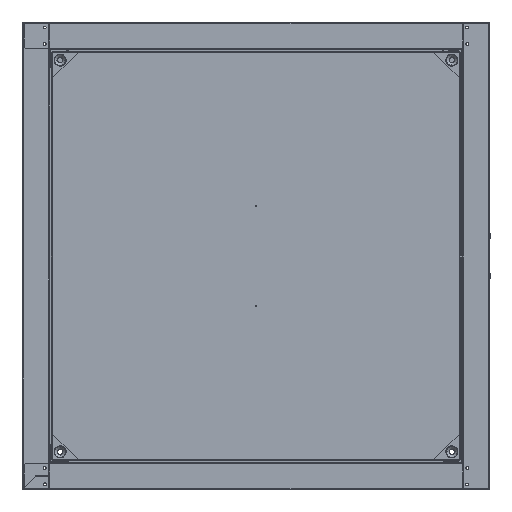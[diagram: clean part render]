
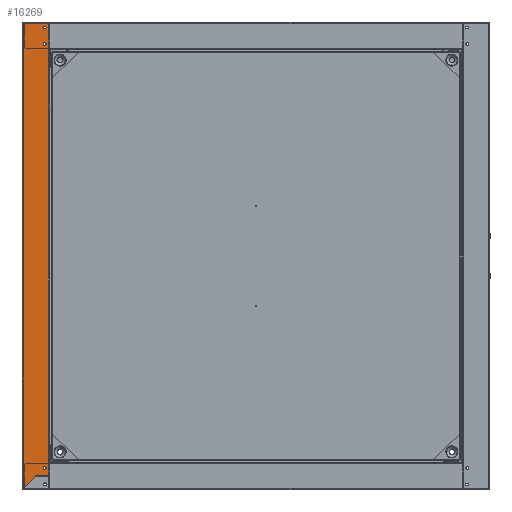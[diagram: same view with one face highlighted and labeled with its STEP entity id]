
A CAD part, left-side view. The second image highlights one B-rep face of the part: STEP entity #16269.
In plain terms, the highlighted planar face has unit normal (-1, 0, 0).
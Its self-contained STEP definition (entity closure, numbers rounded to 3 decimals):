
#20 = ORIENTED_EDGE ( 'NONE', *, *, #44122, .T. ) ;
#214 = EDGE_CURVE ( 'NONE', #14907, #21332, #32493, .T. ) ;
#688 = EDGE_CURVE ( 'NONE', #14907, #27893, #42577, .T. ) ;
#868 = EDGE_CURVE ( 'NONE', #24499, #27453, #28231, .T. ) ;
#1015 = VECTOR ( 'NONE', #36112, 1000. ) ;
#1247 = VERTEX_POINT ( 'NONE', #10176 ) ;
#1351 = VECTOR ( 'NONE', #15127, 1000. ) ;
#1586 = DIRECTION ( 'NONE',  ( 0., 1., 0. ) ) ;
#1799 = VERTEX_POINT ( 'NONE', #21472 ) ;
#2018 = AXIS2_PLACEMENT_3D ( 'NONE', #18409, #42193, #21890 ) ;
#2613 = ORIENTED_EDGE ( 'NONE', *, *, #31749, .F. ) ;
#2644 = CIRCLE ( 'NONE', #2018, 2.1 ) ;
#2690 = CARTESIAN_POINT ( 'NONE',  ( -350., 310.2, -329.1 ) ) ;
#3003 = VERTEX_POINT ( 'NONE', #22727 ) ;
#3838 = VERTEX_POINT ( 'NONE', #11514 ) ;
#3987 = CARTESIAN_POINT ( 'NONE',  ( -350., 318.1, 341.7 ) ) ;
#4440 = EDGE_CURVE ( 'NONE', #23605, #3003, #34859, .T. ) ;
#4491 = PLANE ( 'NONE',  #10290 ) ;
#4756 = CARTESIAN_POINT ( 'NONE',  ( -350., 310.7, 311.65 ) ) ;
#5308 = EDGE_CURVE ( 'NONE', #13173, #27453, #6493, .T. ) ;
#5347 = CARTESIAN_POINT ( 'NONE',  ( -350., 349.1, -348.45 ) ) ;
#5552 = VECTOR ( 'NONE', #34878, 1000. ) ;
#5764 = CARTESIAN_POINT ( 'NONE',  ( -350., 348., 348. ) ) ;
#5800 = EDGE_LOOP ( 'NONE', ( #10046, #2613 ) ) ;
#5843 = ORIENTED_EDGE ( 'NONE', *, *, #27420, .F. ) ;
#6493 = LINE ( 'NONE', #5347, #14548 ) ;
#6513 = FACE_BOUND ( 'NONE', #5800, .T. ) ;
#6782 = DIRECTION ( 'NONE',  ( -1., 0., 0. ) ) ;
#7062 = CARTESIAN_POINT ( 'NONE',  ( -350., 329.75, -329.1 ) ) ;
#7086 = EDGE_CURVE ( 'NONE', #13173, #23605, #14691, .T. ) ;
#7656 = VERTEX_POINT ( 'NONE', #21255 ) ;
#7835 = AXIS2_PLACEMENT_3D ( 'NONE', #9148, #33015, #12635 ) ;
#7868 = DIRECTION ( 'NONE',  ( 0., -1., 0. ) ) ;
#7949 = DIRECTION ( 'NONE',  ( 1., 0., 0. ) ) ;
#8647 = CARTESIAN_POINT ( 'NONE',  ( -350., 310.2, -310.05 ) ) ;
#8662 = CARTESIAN_POINT ( 'NONE',  ( -350., 348., 348.95 ) ) ;
#8939 = ORIENTED_EDGE ( 'NONE', *, *, #18379, .F. ) ;
#9148 = CARTESIAN_POINT ( 'NONE',  ( -350., 316., -317.2 ) ) ;
#9749 = AXIS2_PLACEMENT_3D ( 'NONE', #15310, #39087, #18749 ) ;
#9785 = VECTOR ( 'NONE', #11595, 1000. ) ;
#10046 = ORIENTED_EDGE ( 'NONE', *, *, #43740, .F. ) ;
#10172 = CIRCLE ( 'NONE', #7835, 2.1 ) ;
#10176 = CARTESIAN_POINT ( 'NONE',  ( -350., 313.9, 341.7 ) ) ;
#10290 = AXIS2_PLACEMENT_3D ( 'NONE', #24997, #7949, #31789 ) ;
#10524 = CARTESIAN_POINT ( 'NONE',  ( -350., 316., 317.2 ) ) ;
#11514 = CARTESIAN_POINT ( 'NONE',  ( -350., 313.9, 317.2 ) ) ;
#11595 = DIRECTION ( 'NONE',  ( 0., 0., 1. ) ) ;
#12635 = DIRECTION ( 'NONE',  ( 0., -1., 0. ) ) ;
#12764 = CARTESIAN_POINT ( 'NONE',  ( -350., 313.9, -317.2 ) ) ;
#12782 = CARTESIAN_POINT ( 'NONE',  ( -350., 316., -317.2 ) ) ;
#13173 = VERTEX_POINT ( 'NONE', #7062 ) ;
#13339 = ORIENTED_EDGE ( 'NONE', *, *, #688, .T. ) ;
#13988 = DIRECTION ( 'NONE',  ( 0., -1., 0. ) ) ;
#14030 = EDGE_LOOP ( 'NONE', ( #20, #33820, #28378, #36812, #28333, #31051, #23309, #13339, #32115 ) ) ;
#14253 = EDGE_CURVE ( 'NONE', #7656, #3838, #28082, .T. ) ;
#14359 = VECTOR ( 'NONE', #7868, 1000. ) ;
#14548 = VECTOR ( 'NONE', #30573, 1000. ) ;
#14553 = VERTEX_POINT ( 'NONE', #12764 ) ;
#14691 = LINE ( 'NONE', #28796, #5552 ) ;
#14907 = VERTEX_POINT ( 'NONE', #4756 ) ;
#15127 = DIRECTION ( 'NONE',  ( 0., 0., 1. ) ) ;
#15310 = CARTESIAN_POINT ( 'NONE',  ( -350., 316., 341.7 ) ) ;
#16032 = DIRECTION ( 'NONE',  ( 0., 0., -1. ) ) ;
#16221 = DIRECTION ( 'NONE',  ( 0., -1., 0. ) ) ;
#16269 = ADVANCED_FACE ( 'NONE', ( #6513, #34795, #41722, #24719 ), #4491, .F. ) ;
#18379 = EDGE_CURVE ( 'NONE', #26923, #1247, #2644, .T. ) ;
#18409 = CARTESIAN_POINT ( 'NONE',  ( -350., 316., 341.7 ) ) ;
#18749 = DIRECTION ( 'NONE',  ( 0., -1., 0. ) ) ;
#18869 = CARTESIAN_POINT ( 'NONE',  ( -350., 310.2, 311.65 ) ) ;
#18976 = EDGE_LOOP ( 'NONE', ( #31488, #8939 ) ) ;
#20084 = CARTESIAN_POINT ( 'NONE',  ( -350., 310.2, 311.65 ) ) ;
#20465 = VECTOR ( 'NONE', #1586, 1000. ) ;
#20557 = EDGE_CURVE ( 'NONE', #3003, #21332, #30549, .T. ) ;
#21255 = CARTESIAN_POINT ( 'NONE',  ( -350., 318.1, 317.2 ) ) ;
#21332 = VERTEX_POINT ( 'NONE', #41471 ) ;
#21373 = VERTEX_POINT ( 'NONE', #41755 ) ;
#21460 = DIRECTION ( 'NONE',  ( 0., 0., -1. ) ) ;
#21472 = CARTESIAN_POINT ( 'NONE',  ( -350., 318.1, -317.2 ) ) ;
#21890 = DIRECTION ( 'NONE',  ( 0., -1., 0. ) ) ;
#22264 = EDGE_LOOP ( 'NONE', ( #5843, #30967 ) ) ;
#22727 = CARTESIAN_POINT ( 'NONE',  ( -350., 310.2, -310.05 ) ) ;
#23309 = ORIENTED_EDGE ( 'NONE', *, *, #214, .F. ) ;
#23605 = VERTEX_POINT ( 'NONE', #2690 ) ;
#23837 = EDGE_CURVE ( 'NONE', #27893, #21373, #37672, .T. ) ;
#24388 = AXIS2_PLACEMENT_3D ( 'NONE', #10524, #34375, #13988 ) ;
#24429 = CIRCLE ( 'NONE', #24388, 2.1 ) ;
#24499 = VERTEX_POINT ( 'NONE', #5764 ) ;
#24719 = FACE_OUTER_BOUND ( 'NONE', #14030, .T. ) ;
#24997 = CARTESIAN_POINT ( 'NONE',  ( -350., 350., 348.95 ) ) ;
#26923 = VERTEX_POINT ( 'NONE', #3987 ) ;
#27256 = LINE ( 'NONE', #42954, #1015 ) ;
#27270 = CARTESIAN_POINT ( 'NONE',  ( -350., 316., 317.2 ) ) ;
#27420 = EDGE_CURVE ( 'NONE', #3838, #7656, #24429, .T. ) ;
#27453 = VERTEX_POINT ( 'NONE', #41377 ) ;
#27657 = EDGE_CURVE ( 'NONE', #1247, #26923, #32863, .T. ) ;
#27893 = VERTEX_POINT ( 'NONE', #20084 ) ;
#28082 = CIRCLE ( 'NONE', #30945, 2.1 ) ;
#28231 = LINE ( 'NONE', #8662, #44169 ) ;
#28333 = ORIENTED_EDGE ( 'NONE', *, *, #4440, .T. ) ;
#28378 = ORIENTED_EDGE ( 'NONE', *, *, #5308, .F. ) ;
#28796 = CARTESIAN_POINT ( 'NONE',  ( -350., 310.2, -329.1 ) ) ;
#30549 = LINE ( 'NONE', #39004, #20465 ) ;
#30573 = DIRECTION ( 'NONE',  ( 0., 0.707, -0.707 ) ) ;
#30649 = DIRECTION ( 'NONE',  ( 0., -1., 0. ) ) ;
#30945 = AXIS2_PLACEMENT_3D ( 'NONE', #27270, #6782, #30649 ) ;
#30967 = ORIENTED_EDGE ( 'NONE', *, *, #14253, .F. ) ;
#31051 = ORIENTED_EDGE ( 'NONE', *, *, #20557, .T. ) ;
#31488 = ORIENTED_EDGE ( 'NONE', *, *, #27657, .F. ) ;
#31749 = EDGE_CURVE ( 'NONE', #1799, #14553, #33549, .T. ) ;
#31789 = DIRECTION ( 'NONE',  ( 0., 1., 0. ) ) ;
#32115 = ORIENTED_EDGE ( 'NONE', *, *, #23837, .T. ) ;
#32493 = LINE ( 'NONE', #35358, #39401 ) ;
#32863 = CIRCLE ( 'NONE', #9749, 2.1 ) ;
#33015 = DIRECTION ( 'NONE',  ( -1., 0., 0. ) ) ;
#33549 = CIRCLE ( 'NONE', #44325, 2.1 ) ;
#33820 = ORIENTED_EDGE ( 'NONE', *, *, #868, .T. ) ;
#34375 = DIRECTION ( 'NONE',  ( -1., 0., 0. ) ) ;
#34795 = FACE_BOUND ( 'NONE', #22264, .T. ) ;
#34859 = LINE ( 'NONE', #8647, #9785 ) ;
#34878 = DIRECTION ( 'NONE',  ( 0., -1., 0. ) ) ;
#35358 = CARTESIAN_POINT ( 'NONE',  ( -350., 310.7, 348.95 ) ) ;
#36112 = DIRECTION ( 'NONE',  ( 0., 1., 0. ) ) ;
#36573 = DIRECTION ( 'NONE',  ( -1., 0., 0. ) ) ;
#36812 = ORIENTED_EDGE ( 'NONE', *, *, #7086, .T. ) ;
#37672 = LINE ( 'NONE', #18869, #1351 ) ;
#39004 = CARTESIAN_POINT ( 'NONE',  ( -350., 310.7, -310.05 ) ) ;
#39087 = DIRECTION ( 'NONE',  ( -1., 0., 0. ) ) ;
#39401 = VECTOR ( 'NONE', #21460, 1000. ) ;
#41377 = CARTESIAN_POINT ( 'NONE',  ( -350., 348., -347.35 ) ) ;
#41471 = CARTESIAN_POINT ( 'NONE',  ( -350., 310.7, -310.05 ) ) ;
#41722 = FACE_BOUND ( 'NONE', #18976, .T. ) ;
#41755 = CARTESIAN_POINT ( 'NONE',  ( -350., 310.2, 348. ) ) ;
#42193 = DIRECTION ( 'NONE',  ( -1., 0., 0. ) ) ;
#42462 = CARTESIAN_POINT ( 'NONE',  ( -350., 310.7, 311.65 ) ) ;
#42577 = LINE ( 'NONE', #42462, #14359 ) ;
#42954 = CARTESIAN_POINT ( 'NONE',  ( -350., 310.2, 348. ) ) ;
#43740 = EDGE_CURVE ( 'NONE', #14553, #1799, #10172, .T. ) ;
#44122 = EDGE_CURVE ( 'NONE', #21373, #24499, #27256, .T. ) ;
#44169 = VECTOR ( 'NONE', #16032, 1000. ) ;
#44325 = AXIS2_PLACEMENT_3D ( 'NONE', #12782, #36573, #16221 ) ;
